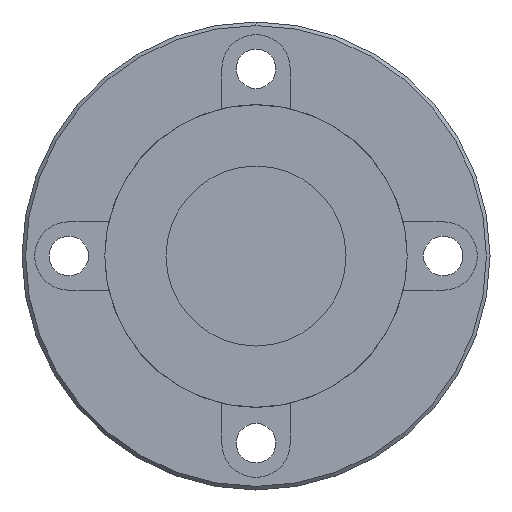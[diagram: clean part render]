
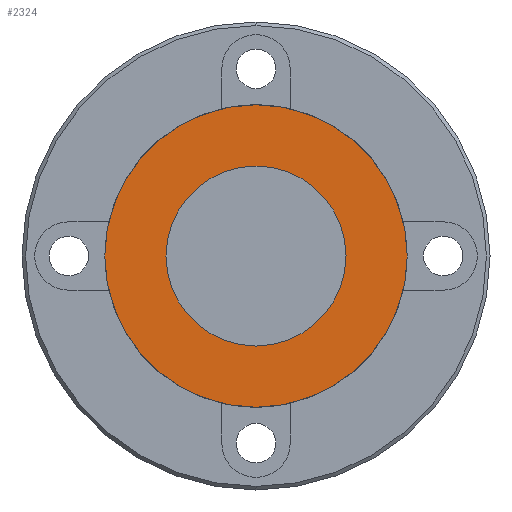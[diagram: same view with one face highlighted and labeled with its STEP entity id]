
A CAD part, left-side view. The second image highlights one B-rep face of the part: STEP entity #2324.
In plain terms, the highlighted planar face has unit normal (-1, 0, 0) as drawn and (0, 0, 1) by its records, which use the part's own axes.
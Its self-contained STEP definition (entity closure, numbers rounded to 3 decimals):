
#13 = ORIENTED_EDGE ( 'NONE', *, *, #500, .F. ) ;
#70 = FACE_BOUND ( 'NONE', #1428, .T. ) ;
#208 = EDGE_LOOP ( 'NONE', ( #13, #2580 ) ) ;
#244 = CARTESIAN_POINT ( 'NONE',  ( 0., 0., 8. ) ) ;
#269 = ORIENTED_EDGE ( 'NONE', *, *, #285, .T. ) ;
#285 = EDGE_CURVE ( 'NONE', #1410, #2131, #1791, .T. ) ;
#305 = AXIS2_PLACEMENT_3D ( 'NONE', #1445, #2596, #2146 ) ;
#358 = CIRCLE ( 'NONE', #1434, 21. ) ;
#495 = DIRECTION ( 'NONE',  ( -1., 0., 0. ) ) ;
#500 = EDGE_CURVE ( 'NONE', #1582, #2399, #358, .T. ) ;
#508 = CARTESIAN_POINT ( 'NONE',  ( 0., 0., 8. ) ) ;
#734 = DIRECTION ( 'NONE',  ( 0., 0., -1. ) ) ;
#746 = DIRECTION ( 'NONE',  ( -1., 0., 0. ) ) ;
#791 = CARTESIAN_POINT ( 'NONE',  ( 21., 0., 8. ) ) ;
#826 = CARTESIAN_POINT ( 'NONE',  ( 12.5, 0., 8. ) ) ;
#871 = AXIS2_PLACEMENT_3D ( 'NONE', #1338, #1765, #746 ) ;
#1019 = EDGE_CURVE ( 'NONE', #2399, #1582, #1929, .T. ) ;
#1092 = DIRECTION ( 'NONE',  ( 0., 0., -1. ) ) ;
#1176 = PLANE ( 'NONE',  #871 ) ;
#1250 = AXIS2_PLACEMENT_3D ( 'NONE', #1831, #1849, #495 ) ;
#1338 = CARTESIAN_POINT ( 'NONE',  ( 0., 32.5, 8. ) ) ;
#1410 = VERTEX_POINT ( 'NONE', #826 ) ;
#1428 = EDGE_LOOP ( 'NONE', ( #2477, #269 ) ) ;
#1434 = AXIS2_PLACEMENT_3D ( 'NONE', #244, #1092, #1521 ) ;
#1445 = CARTESIAN_POINT ( 'NONE',  ( 0., 0., 8. ) ) ;
#1521 = DIRECTION ( 'NONE',  ( -1., 0., 0. ) ) ;
#1582 = VERTEX_POINT ( 'NONE', #2396 ) ;
#1765 = DIRECTION ( 'NONE',  ( 0., 0., -1. ) ) ;
#1791 = CIRCLE ( 'NONE', #1250, 12.5 ) ;
#1817 = CIRCLE ( 'NONE', #2722, 12.5 ) ;
#1831 = CARTESIAN_POINT ( 'NONE',  ( 0., 0., 8. ) ) ;
#1849 = DIRECTION ( 'NONE',  ( 0., 0., -1. ) ) ;
#1929 = CIRCLE ( 'NONE', #305, 21. ) ;
#2131 = VERTEX_POINT ( 'NONE', #2239 ) ;
#2146 = DIRECTION ( 'NONE',  ( -1., 0., 0. ) ) ;
#2235 = FACE_OUTER_BOUND ( 'NONE', #208, .T. ) ;
#2239 = CARTESIAN_POINT ( 'NONE',  ( -12.5, 0., 8. ) ) ;
#2324 = ADVANCED_FACE ( 'NONE', ( #70, #2235 ), #1176, .F. ) ;
#2396 = CARTESIAN_POINT ( 'NONE',  ( -21., 0., 8. ) ) ;
#2399 = VERTEX_POINT ( 'NONE', #791 ) ;
#2477 = ORIENTED_EDGE ( 'NONE', *, *, #2606, .T. ) ;
#2580 = ORIENTED_EDGE ( 'NONE', *, *, #1019, .F. ) ;
#2596 = DIRECTION ( 'NONE',  ( 0., 0., -1. ) ) ;
#2606 = EDGE_CURVE ( 'NONE', #2131, #1410, #1817, .T. ) ;
#2664 = DIRECTION ( 'NONE',  ( -1., 0., 0. ) ) ;
#2722 = AXIS2_PLACEMENT_3D ( 'NONE', #508, #734, #2664 ) ;
